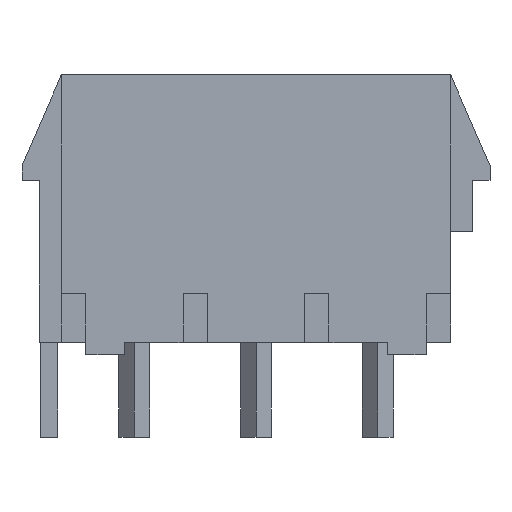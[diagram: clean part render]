
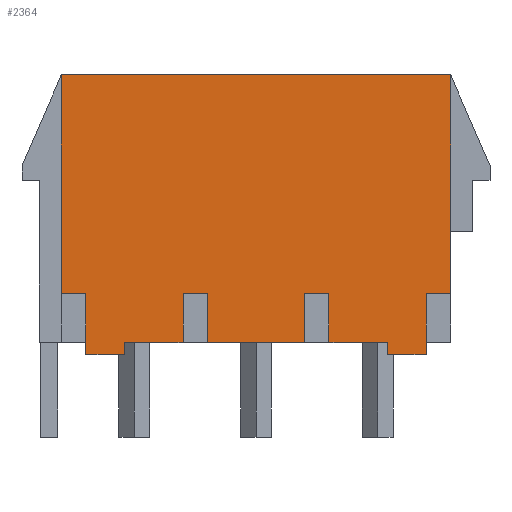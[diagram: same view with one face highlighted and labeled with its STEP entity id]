
A CAD part, top view. The second image highlights one B-rep face of the part: STEP entity #2364.
In plain terms, the highlighted planar face has unit normal (0, 0, 1).
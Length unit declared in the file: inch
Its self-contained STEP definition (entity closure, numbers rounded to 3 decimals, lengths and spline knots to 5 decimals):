
#301=DIRECTION('',(0.,-1.,0.));
#302=VECTOR('',#301,0.025);
#303=CARTESIAN_POINT('',(-0.35,-0.275,0.15));
#304=LINE('',#303,#302);
#305=DIRECTION('',(0.,-1.,0.));
#306=VECTOR('',#305,0.1);
#307=CARTESIAN_POINT('',(0.35,-0.175,0.15));
#308=LINE('',#307,#306);
#309=DIRECTION('',(0.,-1.,0.));
#310=VECTOR('',#309,0.025);
#311=CARTESIAN_POINT('',(0.35,-0.275,0.15));
#312=LINE('',#311,#310);
#313=DIRECTION('',(1.,0.,0.));
#314=VECTOR('',#313,0.12);
#315=CARTESIAN_POINT('',(0.15,-0.275,0.15));
#316=LINE('',#315,#314);
#317=DIRECTION('',(0.,1.,0.));
#318=VECTOR('',#317,0.1);
#319=CARTESIAN_POINT('',(0.15,-0.275,0.15));
#320=LINE('',#319,#318);
#321=DIRECTION('',(-1.,0.,0.));
#322=VECTOR('',#321,0.05);
#323=CARTESIAN_POINT('',(0.15,-0.175,0.15));
#324=LINE('',#323,#322);
#325=DIRECTION('',(0.,-1.,0.));
#326=VECTOR('',#325,0.1);
#327=CARTESIAN_POINT('',(0.1,-0.175,0.15));
#328=LINE('',#327,#326);
#329=DIRECTION('',(1.,0.,0.));
#330=VECTOR('',#329,0.2);
#331=CARTESIAN_POINT('',(-0.1,-0.275,0.15));
#332=LINE('',#331,#330);
#333=DIRECTION('',(0.,1.,0.));
#334=VECTOR('',#333,0.1);
#335=CARTESIAN_POINT('',(-0.1,-0.275,0.15));
#336=LINE('',#335,#334);
#337=DIRECTION('',(-1.,0.,0.));
#338=VECTOR('',#337,0.05);
#339=CARTESIAN_POINT('',(-0.1,-0.175,0.15));
#340=LINE('',#339,#338);
#341=DIRECTION('',(0.,-1.,0.));
#342=VECTOR('',#341,0.1);
#343=CARTESIAN_POINT('',(-0.15,-0.175,0.15));
#344=LINE('',#343,#342);
#345=DIRECTION('',(1.,0.,0.));
#346=VECTOR('',#345,0.12);
#347=CARTESIAN_POINT('',(-0.27,-0.275,0.15));
#348=LINE('',#347,#346);
#349=DIRECTION('',(0.,-1.,0.));
#350=VECTOR('',#349,0.025);
#351=CARTESIAN_POINT('',(-0.27,-0.275,0.15));
#352=LINE('',#351,#350);
#353=DIRECTION('',(0.,1.,0.));
#354=VECTOR('',#353,0.1);
#355=CARTESIAN_POINT('',(-0.35,-0.275,0.15));
#356=LINE('',#355,#354);
#357=DIRECTION('',(1.,0.,0.));
#358=VECTOR('',#357,0.05);
#359=CARTESIAN_POINT('',(-0.4,-0.175,0.15));
#360=LINE('',#359,#358);
#361=DIRECTION('',(0.,-1.,0.));
#362=VECTOR('',#361,0.45);
#363=CARTESIAN_POINT('',(-0.4,0.275,0.15));
#364=LINE('',#363,#362);
#365=DIRECTION('',(-1.,0.,0.));
#366=VECTOR('',#365,0.8);
#367=CARTESIAN_POINT('',(0.4,0.275,0.15));
#368=LINE('',#367,#366);
#369=DIRECTION('',(0.,1.,0.));
#370=VECTOR('',#369,0.45);
#371=CARTESIAN_POINT('',(0.4,-0.175,0.15));
#372=LINE('',#371,#370);
#373=DIRECTION('',(-1.,0.,0.));
#374=VECTOR('',#373,0.05);
#375=CARTESIAN_POINT('',(0.4,-0.175,0.15));
#376=LINE('',#375,#374);
#1277=DIRECTION('',(0.,-1.,0.));
#1278=VECTOR('',#1277,0.025);
#1279=CARTESIAN_POINT('',(0.27,-0.275,0.15));
#1280=LINE('',#1279,#1278);
#1285=DIRECTION('',(-1.,0.,0.));
#1286=VECTOR('',#1285,0.08);
#1287=CARTESIAN_POINT('',(-0.27,-0.3,0.15));
#1288=LINE('',#1287,#1286);
#1297=DIRECTION('',(-1.,0.,0.));
#1298=VECTOR('',#1297,0.08);
#1299=CARTESIAN_POINT('',(0.35,-0.3,0.15));
#1300=LINE('',#1299,#1298);
#1441=CARTESIAN_POINT('',(0.4,0.275,0.15));
#1442=CARTESIAN_POINT('',(-0.4,0.275,0.15));
#1443=VERTEX_POINT('',#1441);
#1444=VERTEX_POINT('',#1442);
#1721=CARTESIAN_POINT('',(-0.4,-0.175,0.15));
#1722=CARTESIAN_POINT('',(-0.35,-0.175,0.15));
#1723=VERTEX_POINT('',#1721);
#1724=VERTEX_POINT('',#1722);
#1733=CARTESIAN_POINT('',(-0.1,-0.275,0.15));
#1734=CARTESIAN_POINT('',(-0.1,-0.175,0.15));
#1735=VERTEX_POINT('',#1733);
#1736=VERTEX_POINT('',#1734);
#1737=CARTESIAN_POINT('',(-0.15,-0.175,0.15));
#1738=VERTEX_POINT('',#1737);
#1739=CARTESIAN_POINT('',(-0.15,-0.275,0.15));
#1740=VERTEX_POINT('',#1739);
#1749=CARTESIAN_POINT('',(0.15,-0.275,0.15));
#1750=CARTESIAN_POINT('',(0.15,-0.175,0.15));
#1751=VERTEX_POINT('',#1749);
#1752=VERTEX_POINT('',#1750);
#1753=CARTESIAN_POINT('',(0.1,-0.175,0.15));
#1754=VERTEX_POINT('',#1753);
#1755=CARTESIAN_POINT('',(0.1,-0.275,0.15));
#1756=VERTEX_POINT('',#1755);
#1765=CARTESIAN_POINT('',(0.4,-0.175,0.15));
#1766=CARTESIAN_POINT('',(0.35,-0.175,0.15));
#1767=VERTEX_POINT('',#1765);
#1768=VERTEX_POINT('',#1766);
#1817=CARTESIAN_POINT('',(-0.35,-0.3,0.15));
#1819=VERTEX_POINT('',#1817);
#1823=CARTESIAN_POINT('',(-0.27,-0.3,0.15));
#1824=VERTEX_POINT('',#1823);
#1825=CARTESIAN_POINT('',(0.35,-0.3,0.15));
#1826=CARTESIAN_POINT('',(0.27,-0.3,0.15));
#1827=VERTEX_POINT('',#1825);
#1828=VERTEX_POINT('',#1826);
#1849=CARTESIAN_POINT('',(-0.35,-0.275,0.15));
#1851=VERTEX_POINT('',#1849);
#1855=CARTESIAN_POINT('',(-0.27,-0.275,0.15));
#1856=VERTEX_POINT('',#1855);
#1857=CARTESIAN_POINT('',(0.27,-0.275,0.15));
#1859=VERTEX_POINT('',#1857);
#1863=CARTESIAN_POINT('',(0.35,-0.275,0.15));
#1864=VERTEX_POINT('',#1863);
#2317=CARTESIAN_POINT('',(0.,0.,0.15));
#2318=DIRECTION('',(0.,0.,1.));
#2319=DIRECTION('',(1.,0.,0.));
#2320=AXIS2_PLACEMENT_3D('',#2317,#2318,#2319);
#2321=PLANE('',#2320);
#2323=ORIENTED_EDGE('',*,*,#2322,.T.);
#2325=ORIENTED_EDGE('',*,*,#2324,.T.);
#2327=ORIENTED_EDGE('',*,*,#2326,.T.);
#2329=ORIENTED_EDGE('',*,*,#2328,.F.);
#2330=ORIENTED_EDGE('',*,*,#1944,.F.);
#2332=ORIENTED_EDGE('',*,*,#2331,.T.);
#2334=ORIENTED_EDGE('',*,*,#2333,.T.);
#2336=ORIENTED_EDGE('',*,*,#2335,.T.);
#2337=ORIENTED_EDGE('',*,*,#1936,.F.);
#2339=ORIENTED_EDGE('',*,*,#2338,.T.);
#2341=ORIENTED_EDGE('',*,*,#2340,.T.);
#2343=ORIENTED_EDGE('',*,*,#2342,.T.);
#2344=ORIENTED_EDGE('',*,*,#1928,.F.);
#2346=ORIENTED_EDGE('',*,*,#2345,.T.);
#2348=ORIENTED_EDGE('',*,*,#2347,.T.);
#2349=ORIENTED_EDGE('',*,*,#2308,.F.);
#2351=ORIENTED_EDGE('',*,*,#2350,.T.);
#2353=ORIENTED_EDGE('',*,*,#2352,.F.);
#2355=ORIENTED_EDGE('',*,*,#2354,.F.);
#2357=ORIENTED_EDGE('',*,*,#2356,.F.);
#2359=ORIENTED_EDGE('',*,*,#2358,.F.);
#2361=ORIENTED_EDGE('',*,*,#2360,.T.);
#2362=EDGE_LOOP('',(#2323,#2325,#2327,#2329,#2330,#2332,#2334,#2336,#2337,#2339,
#2341,#2343,#2344,#2346,#2348,#2349,#2351,#2353,#2355,#2357,#2359,#2361));
#2363=FACE_OUTER_BOUND('',#2362,.F.);
#2364=ADVANCED_FACE('',(#2363),#2321,.T.);
#1928=EDGE_CURVE('',#1856,#1740,#348,.T.);
#1936=EDGE_CURVE('',#1735,#1756,#332,.T.);
#1944=EDGE_CURVE('',#1751,#1859,#316,.T.);
#2308=EDGE_CURVE('',#1851,#1819,#304,.T.);
#2322=EDGE_CURVE('',#1768,#1864,#308,.T.);
#2324=EDGE_CURVE('',#1864,#1827,#312,.T.);
#2326=EDGE_CURVE('',#1827,#1828,#1300,.T.);
#2328=EDGE_CURVE('',#1859,#1828,#1280,.T.);
#2331=EDGE_CURVE('',#1751,#1752,#320,.T.);
#2333=EDGE_CURVE('',#1752,#1754,#324,.T.);
#2335=EDGE_CURVE('',#1754,#1756,#328,.T.);
#2338=EDGE_CURVE('',#1735,#1736,#336,.T.);
#2340=EDGE_CURVE('',#1736,#1738,#340,.T.);
#2342=EDGE_CURVE('',#1738,#1740,#344,.T.);
#2345=EDGE_CURVE('',#1856,#1824,#352,.T.);
#2347=EDGE_CURVE('',#1824,#1819,#1288,.T.);
#2350=EDGE_CURVE('',#1851,#1724,#356,.T.);
#2352=EDGE_CURVE('',#1723,#1724,#360,.T.);
#2354=EDGE_CURVE('',#1444,#1723,#364,.T.);
#2356=EDGE_CURVE('',#1443,#1444,#368,.T.);
#2358=EDGE_CURVE('',#1767,#1443,#372,.T.);
#2360=EDGE_CURVE('',#1767,#1768,#376,.T.);
